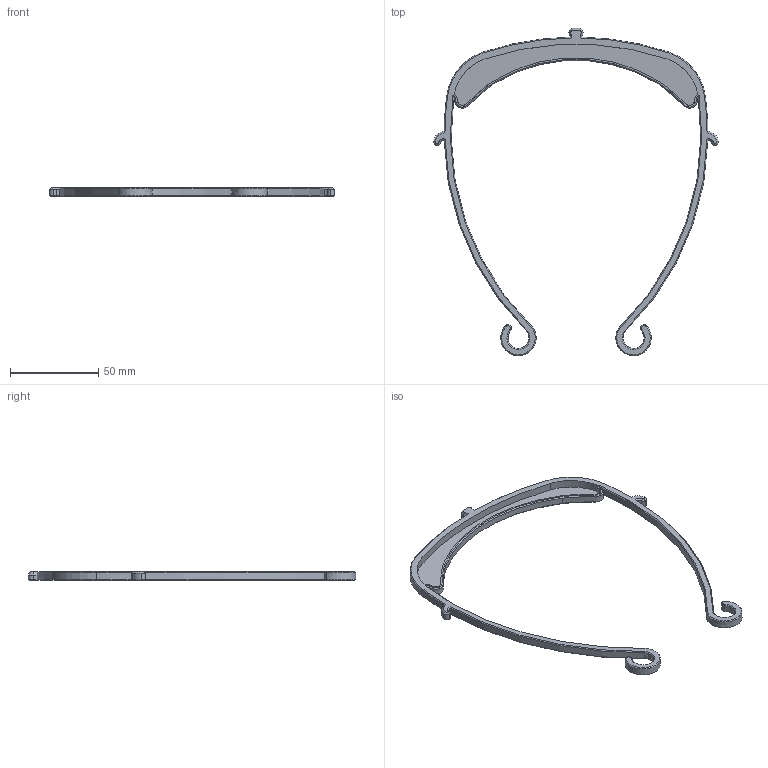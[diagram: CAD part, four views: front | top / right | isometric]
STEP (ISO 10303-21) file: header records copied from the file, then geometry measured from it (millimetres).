
FILE_DESCRIPTION((''),'2;1');
FILE_NAME('NA_LETTER3_COVER','2020-04-09T14:23:49',('Jason'),(''),'CREO PARAMETRIC BY PTC INC, 2019224','CREO PARAMETRIC BY PTC INC, 2019224','');
FILE_SCHEMA(('CONFIG_CONTROL_DESIGN'));
Length unit declared in the file: millimetre
Products named in the file (1): NA_LETTER3_COVER
Bounding box: 161.22 x 185.5 x 5 mm (x, y, z)
Volume: 12998.1 mm3; surface area: 14395.1 mm2
Topology: 1 solids, 1 shells, 119 faces, 286 edges, 170 vertices
Faces by surface type: cone 50, cylinder 31, plane 18, bspline 12, extrusion 8
Entity records: 5583 total; most frequent: CARTESIAN_POINT 2898, ORIENTED_EDGE 572, DIRECTION 521, EDGE_CURVE 286, AXIS2_PLACEMENT_3D 203, VERTEX_POINT 170, EDGE_LOOP 120, FACE_OUTER_BOUND 119
